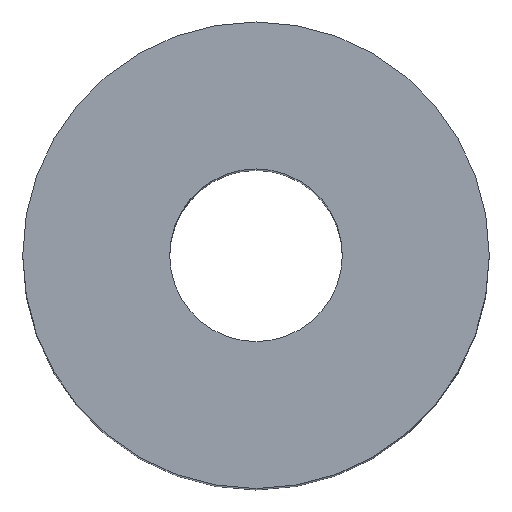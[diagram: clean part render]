
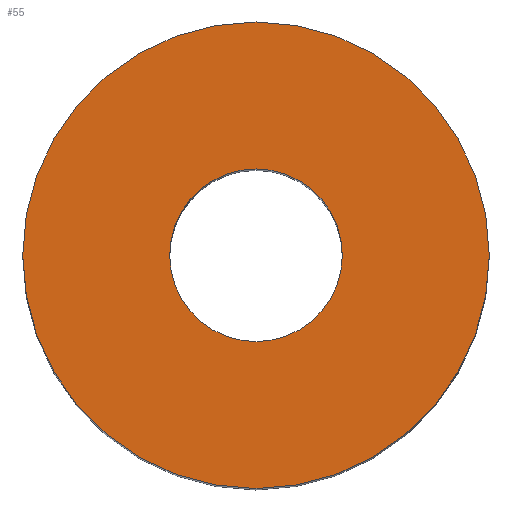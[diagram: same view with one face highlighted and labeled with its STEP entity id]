
A CAD part, top view. The second image highlights one B-rep face of the part: STEP entity #55.
In plain terms, the highlighted planar face has unit normal (0, 0, 1).
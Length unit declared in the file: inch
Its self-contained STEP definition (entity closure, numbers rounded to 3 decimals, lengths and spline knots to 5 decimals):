
#17=FACE_BOUND('',#26,.T.);
#21=FACE_OUTER_BOUND('',#25,.T.);
#25=EDGE_LOOP('',(#45));
#26=EDGE_LOOP('',(#46));
#33=CIRCLE('',#68,0.19685);
#34=CIRCLE('',#69,0.07283);
#37=VERTEX_POINT('',#95);
#38=VERTEX_POINT('',#97);
#41=EDGE_CURVE('',#37,#37,#33,.T.);
#42=EDGE_CURVE('',#38,#38,#34,.T.);
#45=ORIENTED_EDGE('',*,*,#41,.T.);
#46=ORIENTED_EDGE('',*,*,#42,.F.);
#53=PLANE('',#67);
#55=ADVANCED_FACE('',(#21,#17),#53,.T.);
#67=AXIS2_PLACEMENT_3D('',#94,#77,#78);
#68=AXIS2_PLACEMENT_3D('',#96,#79,#80);
#69=AXIS2_PLACEMENT_3D('',#98,#81,#82);
#77=DIRECTION('center_axis',(0.,0.,1.));
#78=DIRECTION('ref_axis',(1.,0.,0.));
#79=DIRECTION('center_axis',(0.,0.,1.));
#80=DIRECTION('ref_axis',(1.,0.,0.));
#81=DIRECTION('center_axis',(0.,0.,1.));
#82=DIRECTION('ref_axis',(1.,0.,0.));
#94=CARTESIAN_POINT('Origin',(0.,0.,0.70866));
#95=CARTESIAN_POINT('',(0.19685,0.,0.70866));
#96=CARTESIAN_POINT('Origin',(0.,0.,0.70866));
#97=CARTESIAN_POINT('',(0.07283,0.,0.70866));
#98=CARTESIAN_POINT('Origin',(0.,0.,0.70866));
